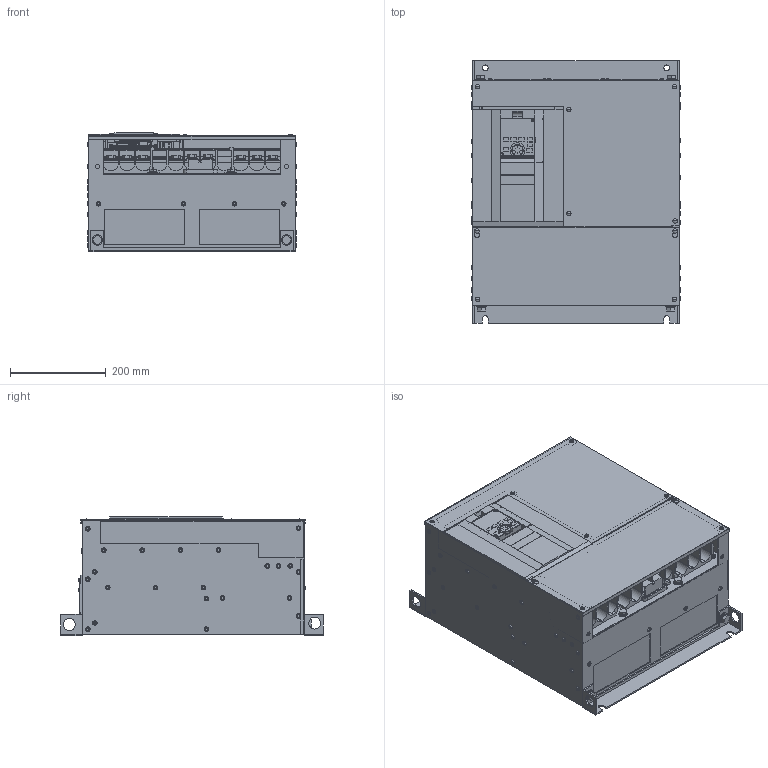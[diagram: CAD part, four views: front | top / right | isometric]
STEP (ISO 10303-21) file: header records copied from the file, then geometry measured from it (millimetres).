
FILE_DESCRIPTION((''),'2;1');
FILE_NAME('3D-INV-A8-01_11_ASM','2014-01-24T',('UJ56049'),(''),'PRO/ENGINEER BY PARAMETRIC TECHNOLOGY CORPORATION, 2011490','PRO/ENGINEER BY PARAMETRIC TECHNOLOGY CORPORATION, 2011490','');
FILE_SCHEMA(('CONFIG_CONTROL_DESIGN'));
Products named in the file (26): 3D-BASE-A8-01_11; 3D-WAKU-A8-01_11_ASM; 3D-ASHI_UPR-A8-01_11; 3D-ASHI_UPR-BOLT-A8-01_11; 3D-ASHI_UPR-BOLT-A8-01_11_ASM; 3D-ASHI_LWR-A8-01_11; 3D-ASHI_LWR-BOLT-A8-01_11; 3D-ASHI_LWR-BOLT-A8-01_11_ASM; 3D-FAN_ASSY-A8-01_11; 3D-FAN_ASSY-A8-01_11_ASM; 3D-FAN_COVX3-A8-01_11; 3D-FAN_COVX3-A8-01_11_ASM; 3DT-PUPM8X16-BOLT-A8; 3D-PUPM8X16-A8_ASM; 3D-TA-A8; 3D-A8-TA_ASM; 3D-DOT-TE_P1_P-A8-01_11; 3D-TE_BOLT-A8-01_11; 3D-TE_BOLT-A8-01_11_ASM; 3D-TE_COV-A8-01_11; 3D-CA_COV-A8; 3D-CA_COV-A8_ASM; 3D-COV_LWR-A8-01_11; 3D-SC-M4X10-BZN; 3D-COV_LWR_NEJI-A8-01_11_ASM; 3D-INV-A8-01_11_ASM
Assembly tree (29 placements, depth 3):
  3D-INV-A8-01_11_ASM
    3D-WAKU-A8-01_11_ASM
      3D-BASE-A8-01_11
    3D-ASHI_UPR-A8-01_11
    3D-ASHI_UPR-BOLT-A8-01_11_ASM
      3D-ASHI_UPR-BOLT-A8-01_11
    3D-ASHI_LWR-A8-01_11
    3D-ASHI_LWR-BOLT-A8-01_11_ASM
      3D-ASHI_LWR-BOLT-A8-01_11
    3D-FAN_ASSY-A8-01_11_ASM
      3D-FAN_ASSY-A8-01_11
    3D-FAN_COVX3-A8-01_11_ASM
      3D-FAN_COVX3-A8-01_11
    3D-PUPM8X16-A8_ASM  x2
      3DT-PUPM8X16-BOLT-A8
    3D-A8-TA_ASM
      3D-TA-A8
    3D-DOT-TE_P1_P-A8-01_11
    3D-TE_BOLT-A8-01_11_ASM
      3D-TE_BOLT-A8-01_11
    3D-TE_COV-A8-01_11
    3D-CA_COV-A8_ASM
      3D-CA_COV-A8
    3D-COV_LWR-A8-01_11
    3D-COV_LWR_NEJI-A8-01_11_ASM
      3D-SC-M4X10-BZN  x4
Bounding box: 437.2 x 550 x 251 mm (x, y, z)
Volume: 41937704.6 mm3; surface area: 2518168.2 mm2
Topology: 35 solids, 51 shells, 4616 faces, 12400 edges, 8142 vertices
Faces by surface type: plane 3263, cylinder 1081, torus 150, sphere 60, cone 56, extrusion 6
Entity records: 143764 total; most frequent: CARTESIAN_POINT 25032, ORIENTED_EDGE 24474, DIRECTION 24311, EDGE_CURVE 12237, VECTOR 9361, LINE 9355, VERTEX_POINT 8076, AXIS2_PLACEMENT_3D 7475
